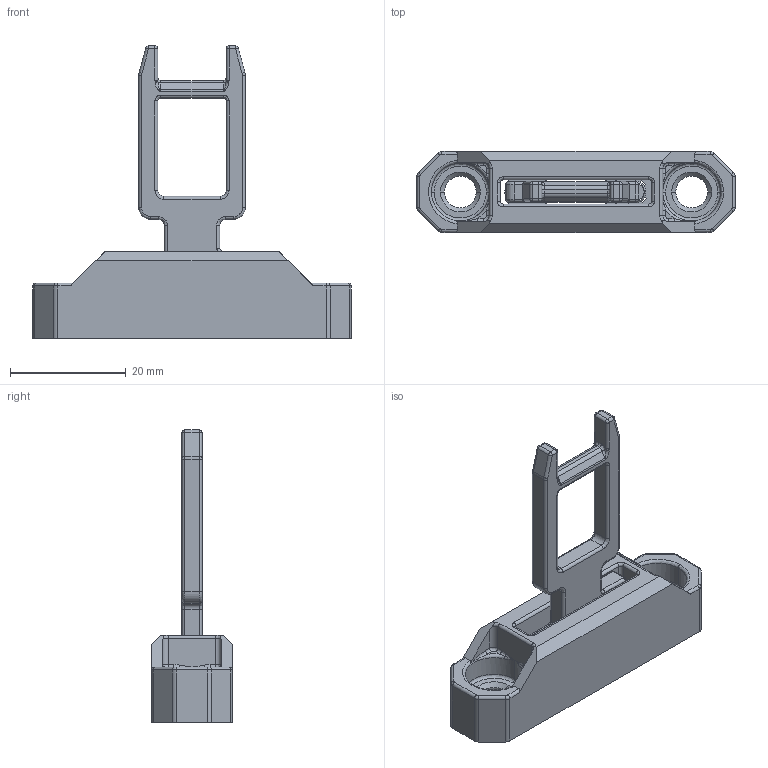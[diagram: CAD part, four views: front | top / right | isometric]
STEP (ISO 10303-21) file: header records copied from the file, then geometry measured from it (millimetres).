
FILE_DESCRIPTION (( 'STEP AP214' ), '1' );
FILE_NAME ('ACIS-PFL.STEP', '2015-10-27T19:22:28', ( '' ), ( '' ), 'SwSTEP 2.0', 'SolidWorks 2015', '' );
FILE_SCHEMA (( 'AUTOMOTIVE_DESIGN' ));
Length unit declared in the file: millimetre
Products named in the file (1): ACIS-PFL
Bounding box: 55 x 14 x 50.5 mm (x, y, z)
Surface area: 6320.2 mm2 (no closed solid volume)
Topology: 0 solids, 6 shells, 328 faces, 901 edges, 563 vertices
Faces by surface type: cylinder 143, bspline 95, plane 80, cone 10
Entity records: 12890 total; most frequent: CARTESIAN_POINT 5251, ORIENTED_EDGE 1609, DIRECTION 1499, EDGE_CURVE 889, VERTEX_POINT 563, AXIS2_PLACEMENT_3D 547, LINE 405, VECTOR 405
